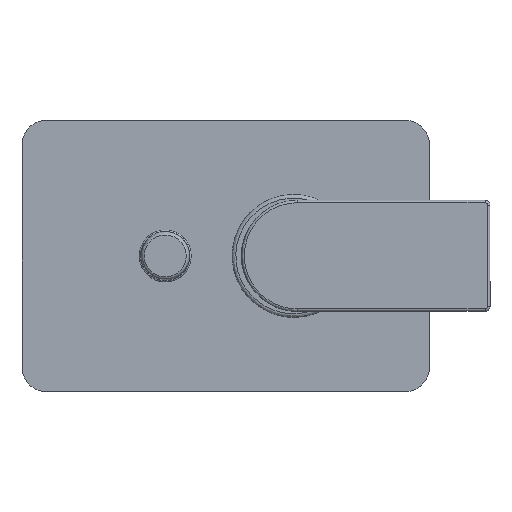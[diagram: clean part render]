
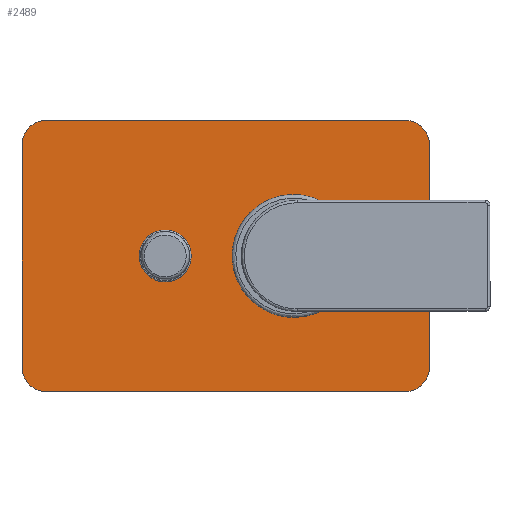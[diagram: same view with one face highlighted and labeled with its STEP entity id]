
A CAD part, top view. The second image highlights one B-rep face of the part: STEP entity #2489.
In plain terms, the highlighted planar face has unit normal (0, 0, 1).
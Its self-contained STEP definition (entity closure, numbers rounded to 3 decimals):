
#116 = CARTESIAN_POINT ( 'NONE',  ( 59.25, 79.825, 28.753 ) ) ;
#123 = ORIENTED_EDGE ( 'NONE', *, *, #543, .T. ) ;
#124 = VECTOR ( 'NONE', #1882, 1000. ) ;
#134 = EDGE_CURVE ( 'NONE', #258, #163, #1084, .T. ) ;
#163 = VERTEX_POINT ( 'NONE', #1073 ) ;
#176 = DIRECTION ( 'NONE',  ( 0., 1., 0. ) ) ;
#258 = VERTEX_POINT ( 'NONE', #1678 ) ;
#311 = PLANE ( 'NONE',  #1539 ) ;
#365 = LINE ( 'NONE', #428, #2074 ) ;
#368 = DIRECTION ( 'NONE',  ( 0., 1., 0. ) ) ;
#373 = LINE ( 'NONE', #1635, #124 ) ;
#387 = ORIENTED_EDGE ( 'NONE', *, *, #1607, .T. ) ;
#428 = CARTESIAN_POINT ( 'NONE',  ( 49.25, -20.175, 28.753 ) ) ;
#468 = ORIENTED_EDGE ( 'NONE', *, *, #134, .T. ) ;
#495 = CARTESIAN_POINT ( 'NONE',  ( -95.75, 89.825, 28.753 ) ) ;
#507 = ORIENTED_EDGE ( 'NONE', *, *, #1625, .T. ) ;
#543 = EDGE_CURVE ( 'NONE', #951, #951, #1736, .T. ) ;
#576 = DIRECTION ( 'NONE',  ( -1., 0., 0. ) ) ;
#671 = CARTESIAN_POINT ( 'NONE',  ( 49.25, -20.175, 28.753 ) ) ;
#689 = CARTESIAN_POINT ( 'NONE',  ( -18.751, 25.287, 28.753 ) ) ;
#723 = AXIS2_PLACEMENT_3D ( 'NONE', #1683, #2681, #1433 ) ;
#750 = VERTEX_POINT ( 'NONE', #495 ) ;
#784 = VERTEX_POINT ( 'NONE', #1797 ) ;
#820 = CARTESIAN_POINT ( 'NONE',  ( 59.25, -10.175, 28.753 ) ) ;
#919 = AXIS2_PLACEMENT_3D ( 'NONE', #1204, #3185, #176 ) ;
#942 = EDGE_LOOP ( 'NONE', ( #1617, #1089, #1184, #2482, #2786, #507, #468, #1909 ) ) ;
#951 = VERTEX_POINT ( 'NONE', #689 ) ;
#966 = DIRECTION ( 'NONE',  ( -1., 0., 0. ) ) ;
#977 = DIRECTION ( 'NONE',  ( 0., 1., 0. ) ) ;
#1071 = VECTOR ( 'NONE', #3157, 1000. ) ;
#1073 = CARTESIAN_POINT ( 'NONE',  ( -95.75, -20.175, 28.753 ) ) ;
#1084 = CIRCLE ( 'NONE', #1947, 10. ) ;
#1089 = ORIENTED_EDGE ( 'NONE', *, *, #1225, .T. ) ;
#1091 = DIRECTION ( 'NONE',  ( 0., 1., 0. ) ) ;
#1092 = EDGE_CURVE ( 'NONE', #2443, #3004, #1600, .T. ) ;
#1138 = CARTESIAN_POINT ( 'NONE',  ( -105.75, 79.825, 28.753 ) ) ;
#1184 = ORIENTED_EDGE ( 'NONE', *, *, #3222, .T. ) ;
#1191 = VERTEX_POINT ( 'NONE', #116 ) ;
#1204 = CARTESIAN_POINT ( 'NONE',  ( -95.75, 79.825, 28.753 ) ) ;
#1225 = EDGE_CURVE ( 'NONE', #3004, #1191, #373, .T. ) ;
#1384 = FACE_OUTER_BOUND ( 'NONE', #942, .T. ) ;
#1433 = DIRECTION ( 'NONE',  ( -0.924, -0.383, 0. ) ) ;
#1457 = DIRECTION ( 'NONE',  ( 1., 0., 0. ) ) ;
#1500 = DIRECTION ( 'NONE',  ( 0., 0., -1. ) ) ;
#1539 = AXIS2_PLACEMENT_3D ( 'NONE', #2340, #3056, #576 ) ;
#1600 = CIRCLE ( 'NONE', #2655, 10. ) ;
#1606 = DIRECTION ( 'NONE',  ( 0., 0., 1. ) ) ;
#1607 = EDGE_CURVE ( 'NONE', #784, #784, #2497, .T. ) ;
#1609 = EDGE_CURVE ( 'NONE', #750, #1903, #2035, .T. ) ;
#1617 = ORIENTED_EDGE ( 'NONE', *, *, #1092, .T. ) ;
#1625 = EDGE_CURVE ( 'NONE', #1903, #258, #2765, .T. ) ;
#1635 = CARTESIAN_POINT ( 'NONE',  ( 59.25, 79.825, 28.753 ) ) ;
#1665 = LINE ( 'NONE', #1939, #3063 ) ;
#1678 = CARTESIAN_POINT ( 'NONE',  ( -105.75, -10.175, 28.753 ) ) ;
#1683 = CARTESIAN_POINT ( 'NONE',  ( 4.25, 34.825, 28.753 ) ) ;
#1718 = DIRECTION ( 'NONE',  ( -1., 0., 0. ) ) ;
#1734 = CARTESIAN_POINT ( 'NONE',  ( 49.25, -10.175, 28.753 ) ) ;
#1736 = CIRCLE ( 'NONE', #723, 24.9 ) ;
#1780 = CARTESIAN_POINT ( 'NONE',  ( 49.25, 89.825, 28.753 ) ) ;
#1797 = CARTESIAN_POINT ( 'NONE',  ( -58.25, 34.825, 28.753 ) ) ;
#1837 = FACE_BOUND ( 'NONE', #2145, .T. ) ;
#1882 = DIRECTION ( 'NONE',  ( 0., 1., 0. ) ) ;
#1903 = VERTEX_POINT ( 'NONE', #2203 ) ;
#1909 = ORIENTED_EDGE ( 'NONE', *, *, #2312, .T. ) ;
#1937 = AXIS2_PLACEMENT_3D ( 'NONE', #2457, #1500, #966 ) ;
#1939 = CARTESIAN_POINT ( 'NONE',  ( 49.25, 89.825, 28.753 ) ) ;
#1944 = CARTESIAN_POINT ( 'NONE',  ( 49.25, 79.825, 28.753 ) ) ;
#1947 = AXIS2_PLACEMENT_3D ( 'NONE', #2496, #1606, #1091 ) ;
#1970 = VERTEX_POINT ( 'NONE', #1780 ) ;
#2035 = CIRCLE ( 'NONE', #919, 10. ) ;
#2074 = VECTOR ( 'NONE', #1457, 1000. ) ;
#2145 = EDGE_LOOP ( 'NONE', ( #123 ) ) ;
#2203 = CARTESIAN_POINT ( 'NONE',  ( -105.75, 79.825, 28.753 ) ) ;
#2312 = EDGE_CURVE ( 'NONE', #163, #2443, #365, .T. ) ;
#2322 = FACE_BOUND ( 'NONE', #3098, .T. ) ;
#2340 = CARTESIAN_POINT ( 'NONE',  ( 4.25, 34.825, 28.753 ) ) ;
#2443 = VERTEX_POINT ( 'NONE', #671 ) ;
#2457 = CARTESIAN_POINT ( 'NONE',  ( -47.75, 34.825, 28.753 ) ) ;
#2482 = ORIENTED_EDGE ( 'NONE', *, *, #2732, .T. ) ;
#2489 = ADVANCED_FACE ( 'NONE', ( #2322, #1384, #1837 ), #311, .F. ) ;
#2496 = CARTESIAN_POINT ( 'NONE',  ( -95.75, -10.175, 28.753 ) ) ;
#2497 = CIRCLE ( 'NONE', #1937, 10.5 ) ;
#2636 = DIRECTION ( 'NONE',  ( 0., 0., 1. ) ) ;
#2655 = AXIS2_PLACEMENT_3D ( 'NONE', #1734, #2993, #977 ) ;
#2681 = DIRECTION ( 'NONE',  ( 0., 0., -1. ) ) ;
#2732 = EDGE_CURVE ( 'NONE', #1970, #750, #1665, .T. ) ;
#2753 = CIRCLE ( 'NONE', #3066, 10. ) ;
#2765 = LINE ( 'NONE', #1138, #1071 ) ;
#2786 = ORIENTED_EDGE ( 'NONE', *, *, #1609, .T. ) ;
#2993 = DIRECTION ( 'NONE',  ( 0., 0., 1. ) ) ;
#3004 = VERTEX_POINT ( 'NONE', #820 ) ;
#3056 = DIRECTION ( 'NONE',  ( 0., 0., -1. ) ) ;
#3063 = VECTOR ( 'NONE', #1718, 1000. ) ;
#3066 = AXIS2_PLACEMENT_3D ( 'NONE', #1944, #2636, #368 ) ;
#3098 = EDGE_LOOP ( 'NONE', ( #387 ) ) ;
#3157 = DIRECTION ( 'NONE',  ( 0., -1., 0. ) ) ;
#3185 = DIRECTION ( 'NONE',  ( 0., 0., 1. ) ) ;
#3222 = EDGE_CURVE ( 'NONE', #1191, #1970, #2753, .T. ) ;
